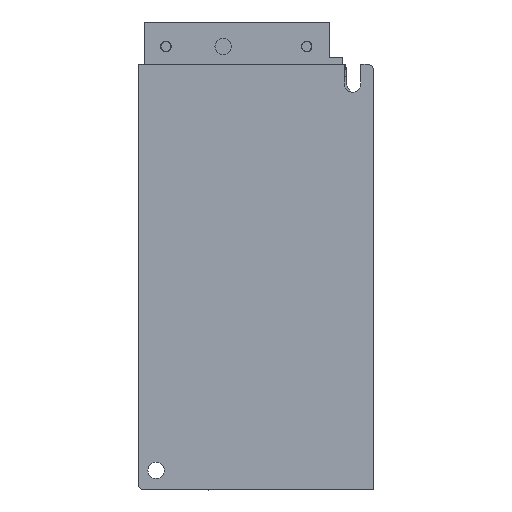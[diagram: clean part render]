
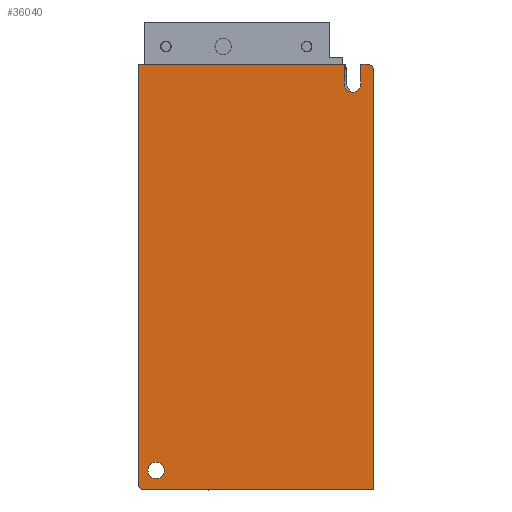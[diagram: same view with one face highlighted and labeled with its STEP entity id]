
A CAD part, front view. The second image highlights one B-rep face of the part: STEP entity #36040.
In plain terms, the highlighted planar face has unit normal (0, -1, 0).
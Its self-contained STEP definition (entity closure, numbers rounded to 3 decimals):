
#907=DIRECTION('',(1.,0.,0.));
#908=VECTOR('',#907,70.);
#909=CARTESIAN_POINT('',(-36.,-35.,130.));
#910=LINE('',#909,#908);
#9317=DIRECTION('',(0.,0.,1.));
#9318=VECTOR('',#9317,128.);
#9319=CARTESIAN_POINT('',(-36.,-35.,2.));
#9320=LINE('',#9319,#9318);
#9637=CARTESIAN_POINT('',(34.,-35.,128.));
#9638=DIRECTION('',(0.,-1.,0.));
#9639=DIRECTION('',(1.,0.,0.));
#9640=AXIS2_PLACEMENT_3D('',#9637,#9638,#9639);
#9642=DIRECTION('',(0.,0.,1.));
#9643=VECTOR('',#9642,128.);
#9644=CARTESIAN_POINT('',(36.,-35.,0.));
#9645=LINE('',#9644,#9643);
#9646=DIRECTION('',(1.,0.,0.));
#9647=VECTOR('',#9646,63.);
#9648=CARTESIAN_POINT('',(-27.,-35.,0.));
#9649=LINE('',#9648,#9647);
#9650=CARTESIAN_POINT('',(-29.5,-35.,6.));
#9651=DIRECTION('',(0.,1.,0.));
#9652=DIRECTION('',(-1.,0.,0.));
#9653=AXIS2_PLACEMENT_3D('',#9650,#9651,#9652);
#9655=DIRECTION('',(0.,0.,1.));
#9656=VECTOR('',#9655,6.);
#9657=CARTESIAN_POINT('',(-32.,-35.,0.));
#9658=LINE('',#9657,#9656);
#9659=DIRECTION('',(1.,0.,0.));
#9660=VECTOR('',#9659,2.);
#9661=CARTESIAN_POINT('',(-34.,-35.,0.));
#9662=LINE('',#9661,#9660);
#9663=CARTESIAN_POINT('',(-34.,-35.,2.));
#9664=DIRECTION('',(0.,-1.,0.));
#9665=DIRECTION('',(-1.,0.,0.));
#9666=AXIS2_PLACEMENT_3D('',#9663,#9664,#9665);
#9668=CARTESIAN_POINT('',(30.5,-35.,124.));
#9669=DIRECTION('',(0.,1.,0.));
#9670=DIRECTION('',(1.,0.,0.));
#9671=AXIS2_PLACEMENT_3D('',#9668,#9669,#9670);
#9673=CARTESIAN_POINT('',(30.5,-35.,124.));
#9674=DIRECTION('',(0.,1.,0.));
#9675=DIRECTION('',(-1.,0.,0.));
#9676=AXIS2_PLACEMENT_3D('',#9673,#9674,#9675);
#9838=DIRECTION('',(0.,0.,1.));
#9839=VECTOR('',#9838,6.);
#9840=CARTESIAN_POINT('',(-27.,-35.,0.));
#9841=LINE('',#9840,#9839);
#15121=CARTESIAN_POINT('',(-36.,-35.,130.));
#15122=VERTEX_POINT('',#15121);
#15123=CARTESIAN_POINT('',(34.,-35.,130.));
#15124=VERTEX_POINT('',#15123);
#18335=CARTESIAN_POINT('',(-32.,-35.,6.));
#18336=CARTESIAN_POINT('',(-27.,-35.,6.));
#18337=VERTEX_POINT('',#18335);
#18338=VERTEX_POINT('',#18336);
#18343=CARTESIAN_POINT('',(-32.,-35.,0.));
#18345=VERTEX_POINT('',#18343);
#18348=CARTESIAN_POINT('',(-34.,-35.,0.));
#18350=VERTEX_POINT('',#18348);
#18353=CARTESIAN_POINT('',(-36.,-35.,2.));
#18354=VERTEX_POINT('',#18353);
#18401=CARTESIAN_POINT('',(-27.,-35.,0.));
#18403=VERTEX_POINT('',#18401);
#18405=CARTESIAN_POINT('',(36.,-35.,128.));
#18407=VERTEX_POINT('',#18405);
#18409=CARTESIAN_POINT('',(36.,-35.,0.));
#18410=VERTEX_POINT('',#18409);
#18822=CARTESIAN_POINT('',(33.,-35.,124.));
#18824=VERTEX_POINT('',#18822);
#18828=CARTESIAN_POINT('',(28.,-35.,124.));
#18829=VERTEX_POINT('',#18828);
#36012=CARTESIAN_POINT('',(36.,-35.,130.));
#36013=DIRECTION('',(0.,-1.,0.));
#36014=DIRECTION('',(-1.,0.,0.));
#36015=AXIS2_PLACEMENT_3D('',#36012,#36013,#36014);
#36016=PLANE('',#36015);
#36018=ORIENTED_EDGE('',*,*,#36017,.F.);
#36020=ORIENTED_EDGE('',*,*,#36019,.F.);
#36021=ORIENTED_EDGE('',*,*,#35021,.F.);
#36023=ORIENTED_EDGE('',*,*,#36022,.T.);
#36025=ORIENTED_EDGE('',*,*,#36024,.F.);
#36027=ORIENTED_EDGE('',*,*,#36026,.F.);
#36028=ORIENTED_EDGE('',*,*,#35997,.F.);
#36029=ORIENTED_EDGE('',*,*,#35251,.F.);
#36030=ORIENTED_EDGE('',*,*,#35231,.T.);
#36031=ORIENTED_EDGE('',*,*,#20094,.T.);
#36032=EDGE_LOOP('',(#36018,#36020,#36021,#36023,#36025,#36027,#36028,#36029,
#36030,#36031));
#36033=FACE_OUTER_BOUND('',#36032,.F.);
#36035=ORIENTED_EDGE('',*,*,#36034,.F.);
#36037=ORIENTED_EDGE('',*,*,#36036,.F.);
#36038=EDGE_LOOP('',(#36035,#36037));
#36039=FACE_BOUND('',#36038,.F.);
#9641=CIRCLE('',#9640,2.);
#9654=CIRCLE('',#9653,2.5);
#9667=CIRCLE('',#9666,2.);
#9672=CIRCLE('',#9671,2.5);
#9677=CIRCLE('',#9676,2.5);
#20094=EDGE_CURVE('',#15122,#15124,#910,.T.);
#35021=EDGE_CURVE('',#18403,#18410,#9649,.T.);
#35231=EDGE_CURVE('',#18354,#15122,#9320,.T.);
#35251=EDGE_CURVE('',#18354,#18350,#9667,.T.);
#35997=EDGE_CURVE('',#18350,#18345,#9662,.T.);
#36017=EDGE_CURVE('',#18407,#15124,#9641,.T.);
#36019=EDGE_CURVE('',#18410,#18407,#9645,.T.);
#36022=EDGE_CURVE('',#18403,#18338,#9841,.T.);
#36024=EDGE_CURVE('',#18337,#18338,#9654,.T.);
#36026=EDGE_CURVE('',#18345,#18337,#9658,.T.);
#36034=EDGE_CURVE('',#18824,#18829,#9672,.T.);
#36036=EDGE_CURVE('',#18829,#18824,#9677,.T.);
#36040=ADVANCED_FACE('',(#36033,#36039),#36016,.T.);
